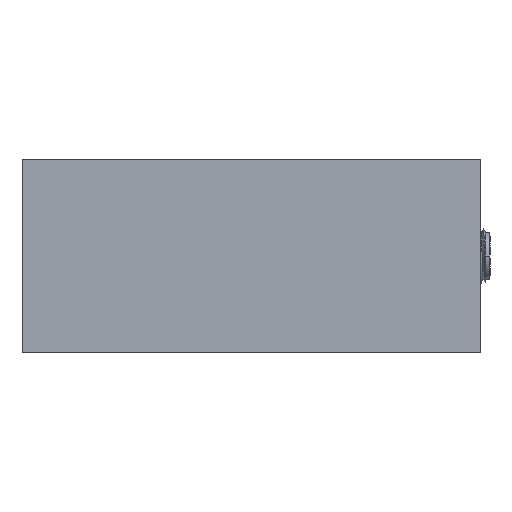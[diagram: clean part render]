
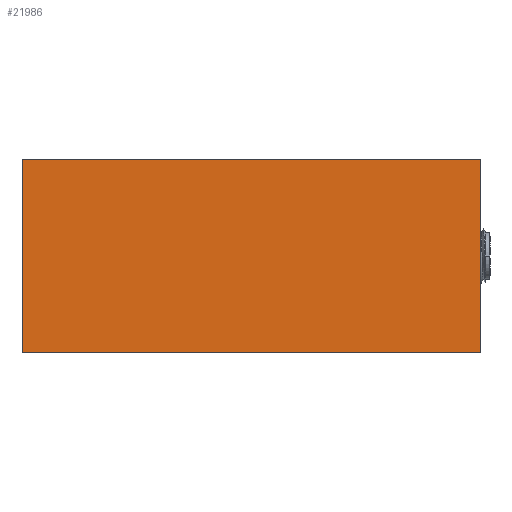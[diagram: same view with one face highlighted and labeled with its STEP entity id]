
A CAD part, left-side view. The second image highlights one B-rep face of the part: STEP entity #21986.
In plain terms, the highlighted planar face has unit normal (-1, 0, 0) as drawn and (0, -1, 0) by its records, which use the part's own axes.
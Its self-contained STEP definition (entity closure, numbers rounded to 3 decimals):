
#348 = ORIENTED_EDGE ( 'NONE', *, *, #45217, .T. ) ;
#656 = DIRECTION ( 'NONE',  ( 0., 0., -1. ) ) ;
#1016 = DIRECTION ( 'NONE',  ( 1., 0., 0. ) ) ;
#1207 = CARTESIAN_POINT ( 'NONE',  ( -21.5, -20., 102. ) ) ;
#1328 = CARTESIAN_POINT ( 'NONE',  ( -21.5, -20., 0. ) ) ;
#3762 = DIRECTION ( 'NONE',  ( 0., 0., 1. ) ) ;
#6998 = CARTESIAN_POINT ( 'NONE',  ( -21.5, -20., 0. ) ) ;
#8975 = AXIS2_PLACEMENT_3D ( 'NONE', #35531, #23405, #3762 ) ;
#12045 = VERTEX_POINT ( 'NONE', #25512 ) ;
#12504 = VECTOR ( 'NONE', #1016, 1000. ) ;
#12757 = EDGE_CURVE ( 'NONE', #12045, #14891, #38553, .T. ) ;
#13162 = LINE ( 'NONE', #24286, #12504 ) ;
#13655 = VECTOR ( 'NONE', #32851, 1000. ) ;
#14891 = VERTEX_POINT ( 'NONE', #44356 ) ;
#17777 = EDGE_CURVE ( 'NONE', #34632, #26165, #36062, .T. ) ;
#17788 = VECTOR ( 'NONE', #46544, 1000. ) ;
#21986 = ADVANCED_FACE ( 'NONE', ( #48174 ), #28546, .F. ) ;
#22292 = EDGE_LOOP ( 'NONE', ( #348, #34222, #43226, #41732 ) ) ;
#23405 = DIRECTION ( 'NONE',  ( 0., 1., 0. ) ) ;
#24286 = CARTESIAN_POINT ( 'NONE',  ( -21.5, -20., 102. ) ) ;
#25512 = CARTESIAN_POINT ( 'NONE',  ( 21.5, -20., 102. ) ) ;
#26165 = VERTEX_POINT ( 'NONE', #6998 ) ;
#28546 = PLANE ( 'NONE',  #8975 ) ;
#31045 = CARTESIAN_POINT ( 'NONE',  ( 21.5, -20., 102. ) ) ;
#32434 = CARTESIAN_POINT ( 'NONE',  ( -21.5, -20., 102. ) ) ;
#32851 = DIRECTION ( 'NONE',  ( 1., 0., 0. ) ) ;
#34222 = ORIENTED_EDGE ( 'NONE', *, *, #12757, .F. ) ;
#34632 = VERTEX_POINT ( 'NONE', #1207 ) ;
#35531 = CARTESIAN_POINT ( 'NONE',  ( -21.5, -20., 102. ) ) ;
#36062 = LINE ( 'NONE', #32434, #45268 ) ;
#36728 = LINE ( 'NONE', #1328, #13655 ) ;
#38553 = LINE ( 'NONE', #31045, #17788 ) ;
#41732 = ORIENTED_EDGE ( 'NONE', *, *, #17777, .T. ) ;
#43226 = ORIENTED_EDGE ( 'NONE', *, *, #49322, .F. ) ;
#44356 = CARTESIAN_POINT ( 'NONE',  ( 21.5, -20., 0. ) ) ;
#45217 = EDGE_CURVE ( 'NONE', #26165, #14891, #36728, .T. ) ;
#45268 = VECTOR ( 'NONE', #656, 1000. ) ;
#46544 = DIRECTION ( 'NONE',  ( 0., 0., -1. ) ) ;
#48174 = FACE_OUTER_BOUND ( 'NONE', #22292, .T. ) ;
#49322 = EDGE_CURVE ( 'NONE', #34632, #12045, #13162, .T. ) ;
